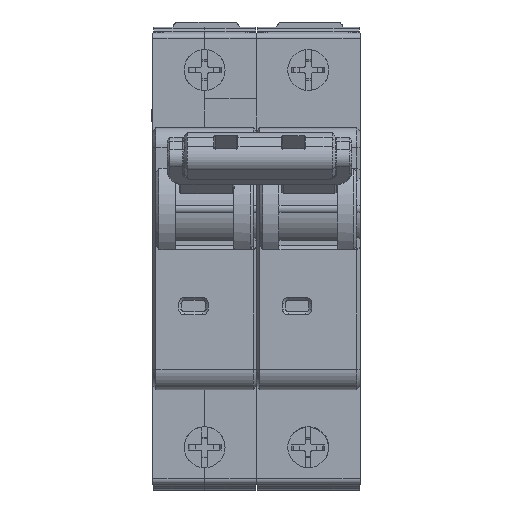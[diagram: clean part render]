
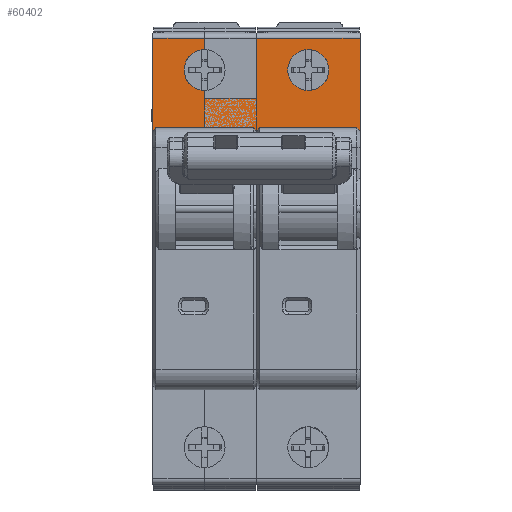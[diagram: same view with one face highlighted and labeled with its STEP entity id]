
A CAD part, left-side view. The second image highlights one B-rep face of the part: STEP entity #60402.
In plain terms, the highlighted planar face has unit normal (-1, 0, 0).
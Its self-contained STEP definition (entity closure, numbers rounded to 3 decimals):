
#2298=DIRECTION('',(0.,1.,0.));
#2299=VECTOR('',#2298,8.85);
#2300=CARTESIAN_POINT('',(7.,17.7,35.));
#2301=LINE('',#2300,#2299);
#4571=DIRECTION('',(0.,1.,0.));
#4572=VECTOR('',#4571,8.85);
#4573=CARTESIAN_POINT('',(7.,26.55,45.2));
#4574=LINE('',#4573,#4572);
#8874=DIRECTION('',(0.,1.,0.));
#8875=VECTOR('',#8874,17.7);
#8876=CARTESIAN_POINT('',(7.,0.,45.2));
#8877=LINE('',#8876,#8875);
#8882=DIRECTION('',(0.,0.567,-0.824));
#8883=VECTOR('',#8882,0.971);
#8884=CARTESIAN_POINT('',(7.,17.15,30.));
#8885=LINE('',#8884,#8883);
#8886=DIRECTION('',(0.,1.,0.));
#8887=VECTOR('',#8886,3.85);
#8888=CARTESIAN_POINT('',(7.,17.7,29.));
#8889=LINE('',#8888,#8887);
#8890=DIRECTION('',(0.,0.,1.));
#8891=VECTOR('',#8890,1.);
#8892=CARTESIAN_POINT('',(7.,21.55,29.));
#8893=LINE('',#8892,#8891);
#8894=DIRECTION('',(0.,0.567,-0.824));
#8895=VECTOR('',#8894,0.971);
#8896=CARTESIAN_POINT('',(7.,34.85,30.));
#8897=LINE('',#8896,#8895);
#8898=DIRECTION('',(0.,0.,1.));
#8899=VECTOR('',#8898,16.);
#8900=CARTESIAN_POINT('',(7.,35.4,29.2));
#8901=LINE('',#8900,#8899);
#8902=DIRECTION('',(0.,0.,-1.));
#8903=VECTOR('',#8902,1.9);
#8904=CARTESIAN_POINT('',(7.,26.55,45.2));
#8905=LINE('',#8904,#8903);
#8906=CARTESIAN_POINT('',(7.,26.55,39.8));
#8907=DIRECTION('',(-1.,0.,0.));
#8908=DIRECTION('',(0.,0.,1.));
#8909=AXIS2_PLACEMENT_3D('',#8906,#8907,#8908);
#8911=DIRECTION('',(0.,0.,-1.));
#8912=VECTOR('',#8911,1.3);
#8913=CARTESIAN_POINT('',(7.,26.55,36.3));
#8914=LINE('',#8913,#8912);
#8915=DIRECTION('',(0.,0.,1.));
#8916=VECTOR('',#8915,10.2);
#8917=CARTESIAN_POINT('',(7.,17.7,35.));
#8918=LINE('',#8917,#8916);
#8919=DIRECTION('',(0.,0.,-1.));
#8920=VECTOR('',#8919,16.);
#8921=CARTESIAN_POINT('',(7.,0.,45.2));
#8922=LINE('',#8921,#8920);
#8923=DIRECTION('',(0.,0.567,0.824));
#8924=VECTOR('',#8923,0.971);
#8925=CARTESIAN_POINT('',(7.,0.,29.2));
#8926=LINE('',#8925,#8924);
#8927=CARTESIAN_POINT('',(7.,8.85,39.8));
#8928=DIRECTION('',(-1.,0.,0.));
#8929=DIRECTION('',(0.,0.,-1.));
#8930=AXIS2_PLACEMENT_3D('',#8927,#8928,#8929);
#8932=CARTESIAN_POINT('',(7.,8.85,39.8));
#8933=DIRECTION('',(-1.,0.,0.));
#8934=DIRECTION('',(0.,0.,1.));
#8935=AXIS2_PLACEMENT_3D('',#8932,#8933,#8934);
#9045=DIRECTION('',(0.,-1.,0.));
#9046=VECTOR('',#9045,16.6);
#9047=CARTESIAN_POINT('',(7.,17.15,30.));
#9048=LINE('',#9047,#9046);
#13409=DIRECTION('',(0.,-1.,0.));
#13410=VECTOR('',#13409,13.3);
#13411=CARTESIAN_POINT('',(7.,34.85,30.));
#13412=LINE('',#13411,#13410);
#13445=DIRECTION('',(0.,0.,-1.));
#13446=VECTOR('',#13445,0.2);
#13447=CARTESIAN_POINT('',(7.,17.7,29.2));
#13448=LINE('',#13447,#13446);
#38888=CARTESIAN_POINT('',(7.,0.,29.2));
#38890=VERTEX_POINT('',#38888);
#38891=CARTESIAN_POINT('',(7.,0.,45.2));
#38892=VERTEX_POINT('',#38891);
#39027=CARTESIAN_POINT('',(7.,0.55,30.));
#39028=VERTEX_POINT('',#39027);
#41241=CARTESIAN_POINT('',(7.,17.7,45.2));
#41242=VERTEX_POINT('',#41241);
#42926=CARTESIAN_POINT('',(7.,17.15,30.));
#42927=VERTEX_POINT('',#42926);
#43338=CARTESIAN_POINT('',(7.,8.85,43.3));
#43340=VERTEX_POINT('',#43338);
#43370=CARTESIAN_POINT('',(7.,8.85,36.3));
#43372=VERTEX_POINT('',#43370);
#45297=CARTESIAN_POINT('',(7.,35.4,45.2));
#45298=VERTEX_POINT('',#45297);
#45299=CARTESIAN_POINT('',(7.,35.4,29.2));
#45300=VERTEX_POINT('',#45299);
#45569=CARTESIAN_POINT('',(7.,26.55,43.3));
#45570=VERTEX_POINT('',#45569);
#45571=CARTESIAN_POINT('',(7.,26.55,45.2));
#45572=VERTEX_POINT('',#45571);
#45687=CARTESIAN_POINT('',(7.,26.55,35.));
#45689=VERTEX_POINT('',#45687);
#45691=CARTESIAN_POINT('',(7.,26.55,36.3));
#45692=VERTEX_POINT('',#45691);
#45933=CARTESIAN_POINT('',(7.,21.55,29.));
#45934=CARTESIAN_POINT('',(7.,21.55,30.));
#45935=VERTEX_POINT('',#45933);
#45936=VERTEX_POINT('',#45934);
#45937=CARTESIAN_POINT('',(7.,34.85,30.));
#45938=VERTEX_POINT('',#45937);
#48245=CARTESIAN_POINT('',(7.,17.7,29.2));
#48246=CARTESIAN_POINT('',(7.,17.7,29.));
#48247=VERTEX_POINT('',#48245);
#48248=VERTEX_POINT('',#48246);
#48280=CARTESIAN_POINT('',(7.,17.7,35.));
#48282=VERTEX_POINT('',#48280);
#60362=CARTESIAN_POINT('',(7.,0.,0.));
#60363=DIRECTION('',(-1.,0.,0.));
#60364=DIRECTION('',(0.,0.,-1.));
#60365=AXIS2_PLACEMENT_3D('',#60362,#60363,#60364);
#60366=PLANE('',#60365);
#60368=ORIENTED_EDGE('',*,*,#60367,.T.);
#60370=ORIENTED_EDGE('',*,*,#60369,.T.);
#60372=ORIENTED_EDGE('',*,*,#60371,.T.);
#60374=ORIENTED_EDGE('',*,*,#60373,.T.);
#60376=ORIENTED_EDGE('',*,*,#60375,.F.);
#60378=ORIENTED_EDGE('',*,*,#60377,.T.);
#60379=ORIENTED_EDGE('',*,*,#54920,.T.);
#60380=ORIENTED_EDGE('',*,*,#55055,.F.);
#60381=ORIENTED_EDGE('',*,*,#55071,.T.);
#60383=ORIENTED_EDGE('',*,*,#60382,.T.);
#60385=ORIENTED_EDGE('',*,*,#60384,.T.);
#60386=ORIENTED_EDGE('',*,*,#51941,.F.);
#60387=ORIENTED_EDGE('',*,*,#52004,.T.);
#60388=ORIENTED_EDGE('',*,*,#60354,.F.);
#60389=ORIENTED_EDGE('',*,*,#60192,.T.);
#60391=ORIENTED_EDGE('',*,*,#60390,.T.);
#60393=ORIENTED_EDGE('',*,*,#60392,.F.);
#60394=EDGE_LOOP('',(#60368,#60370,#60372,#60374,#60376,#60378,#60379,#60380,
#60381,#60383,#60385,#60386,#60387,#60388,#60389,#60391,#60393));
#60395=FACE_OUTER_BOUND('',#60394,.F.);
#60397=ORIENTED_EDGE('',*,*,#60396,.T.);
#60399=ORIENTED_EDGE('',*,*,#60398,.T.);
#60400=EDGE_LOOP('',(#60397,#60399));
#60401=FACE_BOUND('',#60400,.F.);
#60402=ADVANCED_FACE('',(#60395,#60401),#60366,.T.);
#8910=CIRCLE('',#8909,3.5);
#8931=CIRCLE('',#8930,3.5);
#8936=CIRCLE('',#8935,3.5);
#51941=EDGE_CURVE('',#48282,#45689,#2301,.T.);
#52004=EDGE_CURVE('',#48282,#41242,#8918,.T.);
#54920=EDGE_CURVE('',#45300,#45298,#8901,.T.);
#55055=EDGE_CURVE('',#45572,#45298,#4574,.T.);
#55071=EDGE_CURVE('',#45572,#45570,#8905,.T.);
#60192=EDGE_CURVE('',#38892,#38890,#8922,.T.);
#60354=EDGE_CURVE('',#38892,#41242,#8877,.T.);
#60367=EDGE_CURVE('',#42927,#48247,#8885,.T.);
#60369=EDGE_CURVE('',#48247,#48248,#13448,.T.);
#60371=EDGE_CURVE('',#48248,#45935,#8889,.T.);
#60373=EDGE_CURVE('',#45935,#45936,#8893,.T.);
#60375=EDGE_CURVE('',#45938,#45936,#13412,.T.);
#60377=EDGE_CURVE('',#45938,#45300,#8897,.T.);
#60382=EDGE_CURVE('',#45570,#45692,#8910,.T.);
#60384=EDGE_CURVE('',#45692,#45689,#8914,.T.);
#60390=EDGE_CURVE('',#38890,#39028,#8926,.T.);
#60392=EDGE_CURVE('',#42927,#39028,#9048,.T.);
#60396=EDGE_CURVE('',#43372,#43340,#8931,.T.);
#60398=EDGE_CURVE('',#43340,#43372,#8936,.T.);
